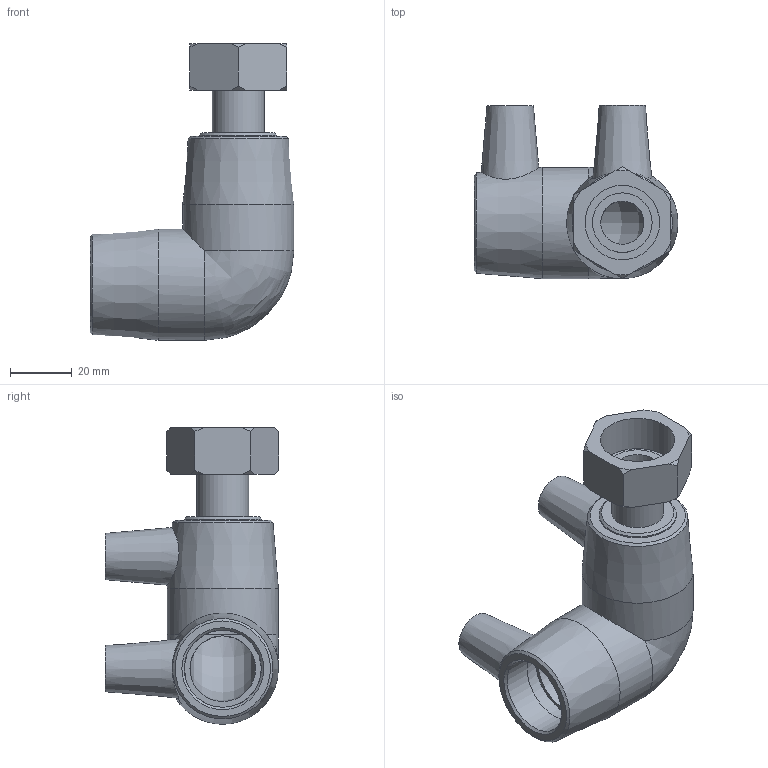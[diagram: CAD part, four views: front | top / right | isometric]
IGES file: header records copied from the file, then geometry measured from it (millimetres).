
Global section: file name: 494504025007.ipt; native system: Autodesk Inventor 2015; preprocessor: unknown; author: KIM; date: 20180426.120813; units: millimetre
Bounding box: 66 x 56.09 x 96 mm (x, y, z)
Volume: 73695.4 mm3; surface area: 26989.4 mm2
Topology: 1 solids, 2 shells, 63 faces, 151 edges, 100 vertices
Faces by surface type: plane 24, cone 19, revolution 11, cylinder 8, bspline 1
Full cylindrical faces by diameter (mm): 4 x2, 16.882 x1, 19.294 x1, 25 x2, 36 x2
